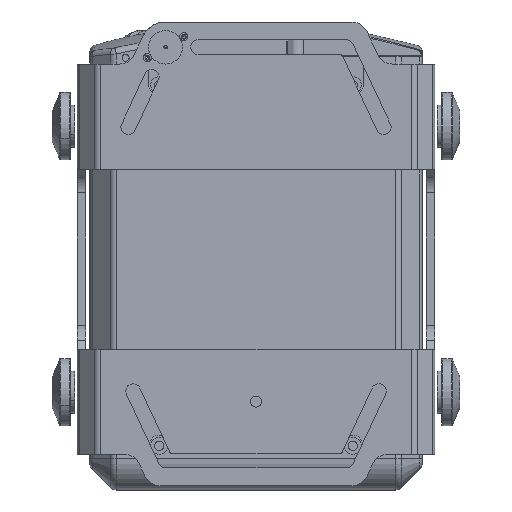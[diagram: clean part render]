
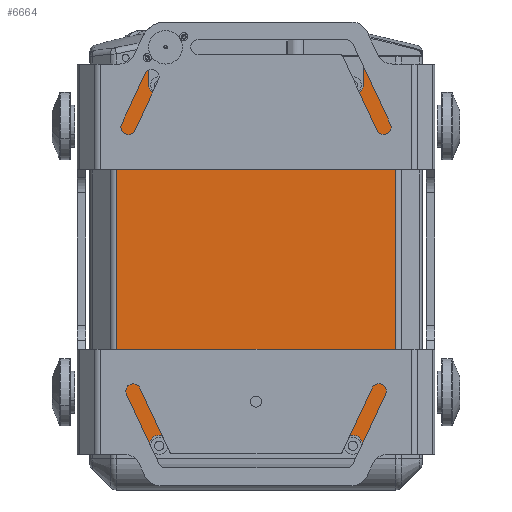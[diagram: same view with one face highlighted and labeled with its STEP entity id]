
A CAD part, front view. The second image highlights one B-rep face of the part: STEP entity #6664.
In plain terms, the highlighted planar face has unit normal (0, -1, 0).
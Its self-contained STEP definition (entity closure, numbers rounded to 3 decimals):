
#182 = DIRECTION ( 'NONE',  ( 1., 0., 0. ) ) ;
#337 = LINE ( 'NONE', #7361, #19860 ) ;
#949 = CARTESIAN_POINT ( 'NONE',  ( -96.035, -11.27, 294.75 ) ) ;
#1064 = AXIS2_PLACEMENT_3D ( 'NONE', #7054, #18793, #6432 ) ;
#1179 = VERTEX_POINT ( 'NONE', #25116 ) ;
#1561 = ORIENTED_EDGE ( 'NONE', *, *, #20087, .F. ) ;
#1826 = CARTESIAN_POINT ( 'NONE',  ( -97.692, -11.27, 294.75 ) ) ;
#1967 = EDGE_CURVE ( 'NONE', #2345, #9208, #13519, .T. ) ;
#2032 = CIRCLE ( 'NONE', #22353, 5. ) ;
#2106 = CARTESIAN_POINT ( 'NONE',  ( -80.692, -11.27, 284.75 ) ) ;
#2345 = VERTEX_POINT ( 'NONE', #5649 ) ;
#2350 = ORIENTED_EDGE ( 'NONE', *, *, #12472, .F. ) ;
#2664 = VECTOR ( 'NONE', #30648, 1000. ) ;
#2892 = LINE ( 'NONE', #7218, #5268 ) ;
#3028 = CARTESIAN_POINT ( 'NONE',  ( 36.651, -11.27, 294.75 ) ) ;
#3457 = CARTESIAN_POINT ( 'NONE',  ( 16.308, -11.27, 284.75 ) ) ;
#3808 = VECTOR ( 'NONE', #29762, 1000. ) ;
#3896 = ORIENTED_EDGE ( 'NONE', *, *, #13014, .F. ) ;
#3918 = LINE ( 'NONE', #11233, #28005 ) ;
#4006 = PLANE ( 'NONE',  #24383 ) ;
#4037 = VERTEX_POINT ( 'NONE', #4800 ) ;
#4040 = ORIENTED_EDGE ( 'NONE', *, *, #8905, .F. ) ;
#4050 = ORIENTED_EDGE ( 'NONE', *, *, #20534, .F. ) ;
#4120 = CIRCLE ( 'NONE', #1064, 5. ) ;
#4697 = VECTOR ( 'NONE', #18834, 1000. ) ;
#4800 = CARTESIAN_POINT ( 'NONE',  ( 21.308, -11.27, 294.75 ) ) ;
#5268 = VECTOR ( 'NONE', #26871, 1000. ) ;
#5582 = EDGE_CURVE ( 'NONE', #9208, #15561, #28475, .T. ) ;
#5649 = CARTESIAN_POINT ( 'NONE',  ( -75.692, -11.27, 279.75 ) ) ;
#5881 = ORIENTED_EDGE ( 'NONE', *, *, #13108, .F. ) ;
#6400 = DIRECTION ( 'NONE',  ( 1., 0., 0. ) ) ;
#6432 = DIRECTION ( 'NONE',  ( -1., 0., 0. ) ) ;
#6664 = ADVANCED_FACE ( 'NONE', ( #23696 ), #4006, .T. ) ;
#6931 = LINE ( 'NONE', #24079, #4697 ) ;
#6982 = LINE ( 'NONE', #17139, #25723 ) ;
#7054 = CARTESIAN_POINT ( 'NONE',  ( -75.692, -11.27, 113.25 ) ) ;
#7091 = CARTESIAN_POINT ( 'NONE',  ( 21.308, -11.27, 109.25 ) ) ;
#7218 = CARTESIAN_POINT ( 'NONE',  ( -97.692, -11.27, 294.75 ) ) ;
#7361 = CARTESIAN_POINT ( 'NONE',  ( -108.692, -11.27, 109.25 ) ) ;
#7521 = VERTEX_POINT ( 'NONE', #3028 ) ;
#7841 = LINE ( 'NONE', #27192, #3808 ) ;
#8180 = AXIS2_PLACEMENT_3D ( 'NONE', #3457, #25220, #13139 ) ;
#8905 = EDGE_CURVE ( 'NONE', #18615, #28413, #2892, .T. ) ;
#9102 = ORIENTED_EDGE ( 'NONE', *, *, #13733, .T. ) ;
#9160 = CARTESIAN_POINT ( 'NONE',  ( -96.035, -11.27, 109.25 ) ) ;
#9208 = VERTEX_POINT ( 'NONE', #19547 ) ;
#9829 = DIRECTION ( 'NONE',  ( 0., -1., 0. ) ) ;
#9922 = ORIENTED_EDGE ( 'NONE', *, *, #25867, .F. ) ;
#10042 = EDGE_CURVE ( 'NONE', #23659, #2345, #13380, .T. ) ;
#10689 = VERTEX_POINT ( 'NONE', #22273 ) ;
#11233 = CARTESIAN_POINT ( 'NONE',  ( 36.651, -11.27, 98.25 ) ) ;
#11506 = ORIENTED_EDGE ( 'NONE', *, *, #29286, .F. ) ;
#11820 = DIRECTION ( 'NONE',  ( 0., 0., -1. ) ) ;
#12472 = EDGE_CURVE ( 'NONE', #1179, #10689, #30607, .T. ) ;
#12818 = DIRECTION ( 'NONE',  ( -1., 0., 0. ) ) ;
#13014 = EDGE_CURVE ( 'NONE', #4037, #7521, #30327, .T. ) ;
#13076 = EDGE_CURVE ( 'NONE', #22492, #16304, #13745, .T. ) ;
#13108 = EDGE_CURVE ( 'NONE', #10689, #23381, #6931, .T. ) ;
#13139 = DIRECTION ( 'NONE',  ( 1., 0., 0. ) ) ;
#13380 = CIRCLE ( 'NONE', #14404, 5. ) ;
#13519 = LINE ( 'NONE', #15897, #25868 ) ;
#13733 = EDGE_CURVE ( 'NONE', #18615, #23381, #6982, .T. ) ;
#13745 = LINE ( 'NONE', #25673, #31086 ) ;
#14404 = AXIS2_PLACEMENT_3D ( 'NONE', #16381, #26065, #6400 ) ;
#14563 = CARTESIAN_POINT ( 'NONE',  ( 21.308, -11.27, 113.25 ) ) ;
#15014 = LINE ( 'NONE', #26764, #22376 ) ;
#15561 = VERTEX_POINT ( 'NONE', #18949 ) ;
#15805 = VERTEX_POINT ( 'NONE', #22748 ) ;
#15897 = CARTESIAN_POINT ( 'NONE',  ( 16.308, -11.27, 279.75 ) ) ;
#15938 = DIRECTION ( 'NONE',  ( 0., 0., -1. ) ) ;
#16304 = VERTEX_POINT ( 'NONE', #14563 ) ;
#16381 = CARTESIAN_POINT ( 'NONE',  ( -75.692, -11.27, 284.75 ) ) ;
#16627 = ORIENTED_EDGE ( 'NONE', *, *, #10042, .F. ) ;
#17139 = CARTESIAN_POINT ( 'NONE',  ( -96.035, -11.27, 98.25 ) ) ;
#17235 = DIRECTION ( 'NONE',  ( 0., 0., 1. ) ) ;
#17418 = VERTEX_POINT ( 'NONE', #23732 ) ;
#18377 = DIRECTION ( 'NONE',  ( 0., 0., 1. ) ) ;
#18400 = ORIENTED_EDGE ( 'NONE', *, *, #5582, .F. ) ;
#18615 = VERTEX_POINT ( 'NONE', #949 ) ;
#18793 = DIRECTION ( 'NONE',  ( 0., -1., 0. ) ) ;
#18834 = DIRECTION ( 'NONE',  ( -1., 0., 0. ) ) ;
#18949 = CARTESIAN_POINT ( 'NONE',  ( 21.308, -11.27, 284.75 ) ) ;
#19347 = VECTOR ( 'NONE', #11820, 1000. ) ;
#19547 = CARTESIAN_POINT ( 'NONE',  ( 16.308, -11.27, 279.75 ) ) ;
#19860 = VECTOR ( 'NONE', #28957, 1000. ) ;
#20087 = EDGE_CURVE ( 'NONE', #16304, #31433, #2032, .T. ) ;
#20248 = CARTESIAN_POINT ( 'NONE',  ( -80.692, -11.27, 109.25 ) ) ;
#20257 = EDGE_CURVE ( 'NONE', #15561, #4037, #15014, .T. ) ;
#20458 = EDGE_CURVE ( 'NONE', #15805, #1179, #4120, .T. ) ;
#20534 = EDGE_CURVE ( 'NONE', #28413, #23659, #21048, .T. ) ;
#20977 = EDGE_CURVE ( 'NONE', #17418, #7521, #3918, .T. ) ;
#21048 = LINE ( 'NONE', #2106, #19347 ) ;
#21782 = CARTESIAN_POINT ( 'NONE',  ( -97.692, -11.27, 98.25 ) ) ;
#21942 = ORIENTED_EDGE ( 'NONE', *, *, #20257, .F. ) ;
#22273 = CARTESIAN_POINT ( 'NONE',  ( -80.692, -11.27, 109.25 ) ) ;
#22353 = AXIS2_PLACEMENT_3D ( 'NONE', #24732, #9829, #12818 ) ;
#22376 = VECTOR ( 'NONE', #17235, 1000. ) ;
#22492 = VERTEX_POINT ( 'NONE', #7091 ) ;
#22748 = CARTESIAN_POINT ( 'NONE',  ( -75.692, -11.27, 118.25 ) ) ;
#23066 = CARTESIAN_POINT ( 'NONE',  ( 16.308, -11.27, 118.25 ) ) ;
#23381 = VERTEX_POINT ( 'NONE', #9160 ) ;
#23659 = VERTEX_POINT ( 'NONE', #24547 ) ;
#23696 = FACE_OUTER_BOUND ( 'NONE', #30836, .T. ) ;
#23732 = CARTESIAN_POINT ( 'NONE',  ( 36.651, -11.27, 109.25 ) ) ;
#24079 = CARTESIAN_POINT ( 'NONE',  ( -108.692, -11.27, 109.25 ) ) ;
#24166 = ORIENTED_EDGE ( 'NONE', *, *, #1967, .F. ) ;
#24383 = AXIS2_PLACEMENT_3D ( 'NONE', #21782, #24473, #182 ) ;
#24473 = DIRECTION ( 'NONE',  ( 0., -1., 0. ) ) ;
#24547 = CARTESIAN_POINT ( 'NONE',  ( -80.692, -11.27, 284.75 ) ) ;
#24732 = CARTESIAN_POINT ( 'NONE',  ( 16.308, -11.27, 113.25 ) ) ;
#24775 = ORIENTED_EDGE ( 'NONE', *, *, #20458, .F. ) ;
#25116 = CARTESIAN_POINT ( 'NONE',  ( -80.692, -11.27, 113.25 ) ) ;
#25220 = DIRECTION ( 'NONE',  ( 0., -1., 0. ) ) ;
#25673 = CARTESIAN_POINT ( 'NONE',  ( 21.308, -11.27, 113.25 ) ) ;
#25723 = VECTOR ( 'NONE', #28590, 1000. ) ;
#25867 = EDGE_CURVE ( 'NONE', #17418, #22492, #337, .T. ) ;
#25868 = VECTOR ( 'NONE', #25899, 1000. ) ;
#25899 = DIRECTION ( 'NONE',  ( 1., 0., 0. ) ) ;
#26065 = DIRECTION ( 'NONE',  ( 0., -1., 0. ) ) ;
#26454 = VECTOR ( 'NONE', #15938, 1000. ) ;
#26764 = CARTESIAN_POINT ( 'NONE',  ( 21.308, -11.27, 294.75 ) ) ;
#26871 = DIRECTION ( 'NONE',  ( 1., 0., 0. ) ) ;
#27128 = ORIENTED_EDGE ( 'NONE', *, *, #13076, .F. ) ;
#27192 = CARTESIAN_POINT ( 'NONE',  ( -75.692, -11.27, 118.25 ) ) ;
#27474 = ORIENTED_EDGE ( 'NONE', *, *, #20977, .T. ) ;
#28005 = VECTOR ( 'NONE', #30000, 1000. ) ;
#28413 = VERTEX_POINT ( 'NONE', #30070 ) ;
#28475 = CIRCLE ( 'NONE', #8180, 5. ) ;
#28590 = DIRECTION ( 'NONE',  ( 0., 0., -1. ) ) ;
#28957 = DIRECTION ( 'NONE',  ( -1., 0., 0. ) ) ;
#29286 = EDGE_CURVE ( 'NONE', #31433, #15805, #7841, .T. ) ;
#29762 = DIRECTION ( 'NONE',  ( -1., 0., 0. ) ) ;
#30000 = DIRECTION ( 'NONE',  ( 0., 0., 1. ) ) ;
#30070 = CARTESIAN_POINT ( 'NONE',  ( -80.692, -11.27, 294.75 ) ) ;
#30327 = LINE ( 'NONE', #1826, #2664 ) ;
#30607 = LINE ( 'NONE', #20248, #26454 ) ;
#30648 = DIRECTION ( 'NONE',  ( 1., 0., 0. ) ) ;
#30836 = EDGE_LOOP ( 'NONE', ( #27128, #9922, #27474, #3896, #21942, #18400, #24166, #16627, #4050, #4040, #9102, #5881, #2350, #24775, #11506, #1561 ) ) ;
#31086 = VECTOR ( 'NONE', #18377, 1000. ) ;
#31433 = VERTEX_POINT ( 'NONE', #23066 ) ;
